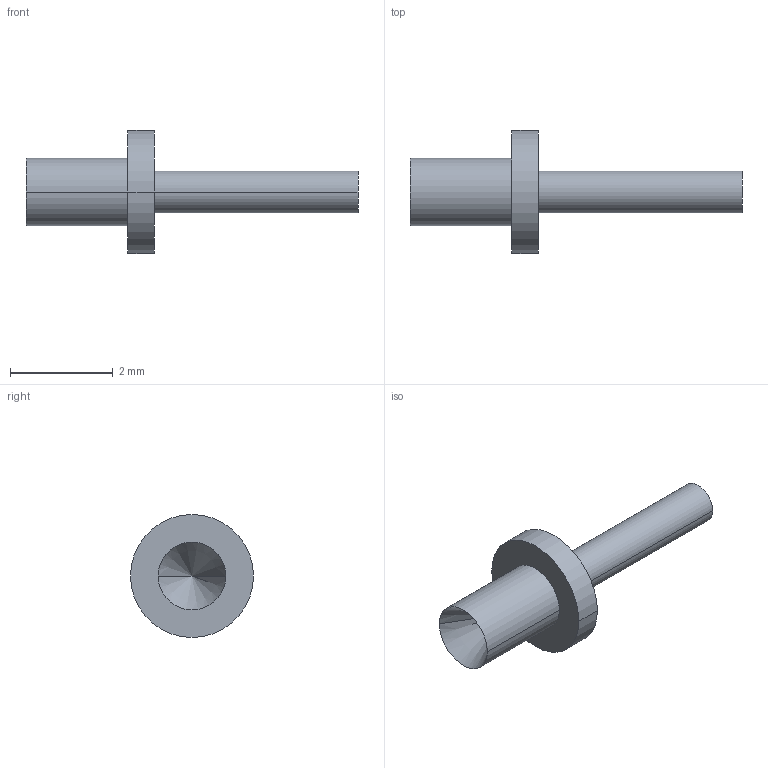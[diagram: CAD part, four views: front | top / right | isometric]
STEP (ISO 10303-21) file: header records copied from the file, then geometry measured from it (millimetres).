
FILE_DESCRIPTION((''),'2;1');
FILE_NAME('H2105A01','2007-12-17T',('wbourne'),(''),'PRO/ENGINEER BY PARAMETRIC TECHNOLOGY CORPORATION, 2003490','PRO/ENGINEER BY PARAMETRIC TECHNOLOGY CORPORATION, 2003490','');
FILE_SCHEMA(('CONFIG_CONTROL_DESIGN'));
Length unit declared in the file: millimetre
Products named in the file (1): H2105A01
Bounding box: 6.45 x 2.39 x 2.39 mm (x, y, z)
Volume: 6.5 mm3; surface area: 32.5 mm2
Topology: 1 solids, 1 shells, 11 faces, 22 edges, 13 vertices
Faces by surface type: cylinder 6, plane 3, cone 2
Entity records: 316 total; most frequent: DIRECTION 54, CARTESIAN_POINT 44, ORIENTED_EDGE 40, AXIS2_PLACEMENT_3D 23, EDGE_CURVE 20, VERTEX_POINT 13, EDGE_LOOP 13, CIRCLE 12
